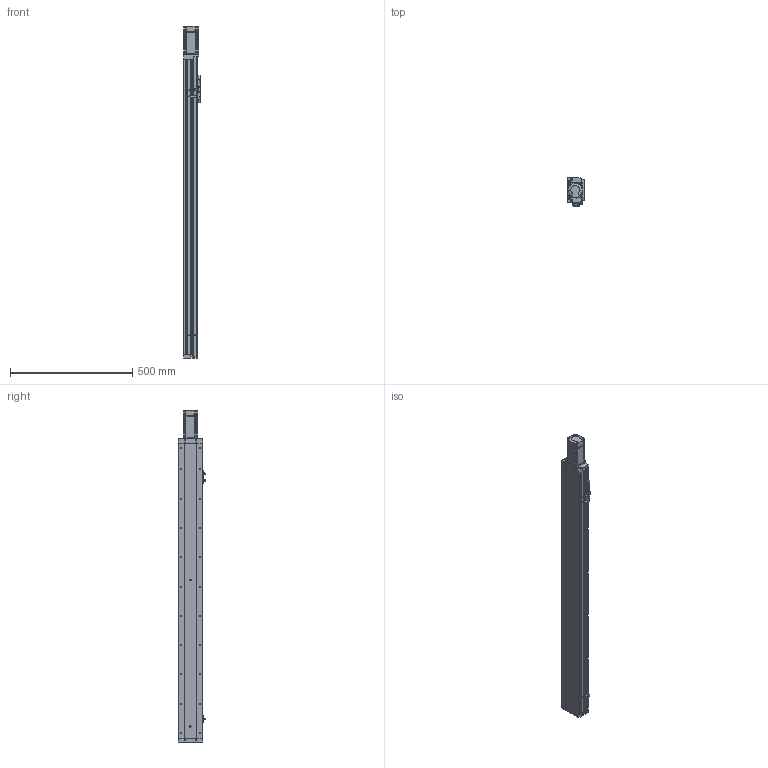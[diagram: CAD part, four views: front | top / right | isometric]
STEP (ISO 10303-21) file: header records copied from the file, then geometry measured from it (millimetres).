
FILE_DESCRIPTION (( 'STEP AP214' ), '1' );
FILE_NAME ('KSD100S-S1000-MN-CR.STEP', '2019-09-02T09:43:42', ( '微软用户' ), ( '微软中国' ), 'SwSTEP 2.0', 'SolidWorks 2014', '' );
FILE_SCHEMA (( 'AUTOMOTIVE_DESIGN' ));
Length unit declared in the file: millimetre
Products named in the file (12): MHMD042G1CA_2_03; U倰嫖萇EEㄜSX672; 感应片100宽全封闭; 100宽马达安装板全封闭不带电机座; 100宽端板全封闭; 100宽滚珠螺姆安装板1防护罩; 100宽滚珠螺姆安装板1; 100宽盖板压板不带电机座; 100宽盖板1000行程不带电机座; 100宽侧板1000行程不带电机座; 100宽底板全封闭1000行程不带电机座; KSD100S-S1000-MN-CR
Assembly tree (15 placements, depth 2):
  KSD100S-S1000-MN-CR
    100宽底板全封闭1000行程不带电机座
    100宽侧板1000行程不带电机座  x2
    100宽盖板1000行程不带电机座
    100宽盖板压板不带电机座  x2
    100宽滚珠螺姆安装板1
    100宽滚珠螺姆安装板1防护罩
    100宽端板全封闭
    100宽马达安装板全封闭不带电机座
    感应片100宽全封闭
    U倰嫖萇EEㄜSX672  x3
    MHMD042G1CA_2_03
Bounding box: 70 x 113.7 x 1360.5 mm (x, y, z)
Volume: 2390320.4 mm3; surface area: 1044428.6 mm2
Topology: 14 solids, 15 shells, 1636 faces, 4594 edges, 2908 vertices
Faces by surface type: cylinder 697, plane 660, cone 261, bspline 18
Entity records: 56110 total; most frequent: CARTESIAN_POINT 8853, DIRECTION 7683, ORIENTED_EDGE 7120, EDGE_CURVE 3632, AXIS2_PLACEMENT_3D 2754, VERTEX_POINT 2406, VECTOR 2175, LINE 2175
